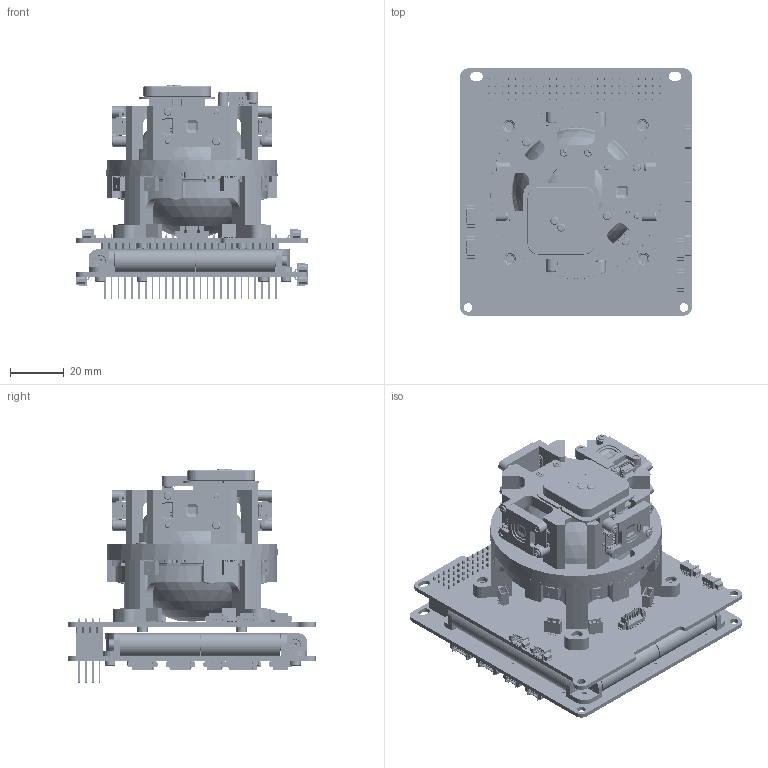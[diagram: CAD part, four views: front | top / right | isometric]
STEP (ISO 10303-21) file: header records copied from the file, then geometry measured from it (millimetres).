
FILE_DESCRIPTION(/* description */ (''),/* implementation_level */ '2;1');
FILE_NAME(/* name */ 'G:\Shared drives\研發部\RD Project\Inventor Mechanical Design Files\ADCS-10m Integrated ADCS\V1.1\Full Assembly of ADCS-10m V1.1 for Customers.stp',/* time_stamp */ '2022-12-06T16:29:51+08:00',/* author */ ('thoma'),/* organization */ (''),/* preprocessor_version */ 'ST-DEVELOPER v19',/* originating_system */ 'Autodesk Inventor 2023',/* authorisation */ '');
FILE_SCHEMA (('AUTOMOTIVE_DESIGN { 1 0 10303 214 3 1 1 }'));
Length unit declared in the file: millimetre
Products named in the file (64): Full Assembly of ADCS-10m V1.1; Assembly C. Circuit Board; C-1. Main Driving Circuit Board - Standard PC104 (Modified); 26. Torquer Seat-2; Magnetorquer Rod; SNSS-M2-3; SNSS-M2-4; SNSS-M2-5; SFB2-4; 15. Corner Coil Seat; 12. Z axis Coil; Magnetorquer Coil; SSQ-126-23-G-D; _T1SSQ-126-23-G-D; _P2SSQ-126-23-G-D; 11. Z axis Coil Seat; C-6-4. Molex Pico Blade 4-pin connector 532614007; Part2; C-6-3. Molex Pico Blade 4-pin connector 532614004; C-6-6. Molex Pico Blade 5-pin connector 532614005; Full Assembly; Stator Assembly; 8. Coil; 1. Stator Back Iron Shell; Stator Coil Seat (2); B-8. Bearing Seat; B-9. Bearing Seat with Spring; B-7. Stator Outer Structure; B-6. Side Magnetic Sensors (Assembly); B-6. Side Magnetic Sensors; C-4. Molex Pico-Clasp 2035570307 1mm 3-pin; B-6-4. X Y-axis Magnetic Sensors; C-1-2. Molex Pico-Clasp 2035570407 1mm 4-pin; SNZS-M2-3; C-1. Z-axis Magnetic Sensor Board; B-8. Z-axis Magnetic Sensor Board; C-1-2. Molex Pico-Clasp 2083810603 1mm 6-pin; 781710004; Document; C-6. Main Driving Circuit Board - Modified PC104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
Assembly tree (162 placements, depth 5):
  Full Assembly of ADCS-10m V1.1
    Assembly C. Circuit Board
      C-1. Main Driving Circuit Board - Standard PC104 (Modified)
      26. Torquer Seat-2  x2
      Magnetorquer Rod  x2
      Magnetorquer Coil  x4
      SNSS-M2-4  x2
      SNSS-M2-3  x3
      SNSS-M2-5  x4
      SFB2-4  x2
      15. Corner Coil Seat
      12. Z axis Coil  x2
      SSQ-126-23-G-D  x2
        _T1SSQ-126-23-G-D
        _P2SSQ-126-23-G-D
      11. Z axis Coil Seat
      C-6-3. Molex Pico Blade 4-pin connector 532614004  x3
      C-6-6. Molex Pico Blade 5-pin connector 532614005  x2
      Part2  x3
      C-6-4. Molex Pico Blade 4-pin connector 532614007
    Full Assembly
      Stator Assembly
        8. Coil  x6
        1. Stator Back Iron Shell  x2
        Stator Coil Seat (2)  x2
        B-8. Bearing Seat
        B-9. Bearing Seat with Spring
        B-7. Stator Outer Structure
        B-6. Side Magnetic Sensors (Assembly)
          B-6. Side Magnetic Sensors
          C-4. Molex Pico-Clasp 2035570307 1mm 3-pin  x4
          B-6-4. X Y-axis Magnetic Sensors  x4
          C-1-2. Molex Pico-Clasp 2035570407 1mm 4-pin  x3
      SNZS-M2-3  x4
      C-1. Z-axis Magnetic Sensor Board
        B-8. Z-axis Magnetic Sensor Board
        C-1-2. Molex Pico-Clasp 2083810603 1mm 6-pin
        781710004
        Document
      C-6. Main Driving Circuit Board - Modified PC104
        C-1. Main Driving Circuit Board - Standard PC104 (Modified)_1
        C-6-2. Pin Header 2.54mm 1-13  x8
        C-4. Molex Pico-Clasp 2035570307 1mm 3-pin_1  x4
        QFN-16 (3x3)
          QFN-16 (3x3) Part1
          QFN-16 (3x3) Part2  x16
          QFN-16 (3x3) Assembly
        C-1-2. Molex Pico-Clasp 2035570407 1mm 4-pin_1  x3
        C-6-7. Molex Pico Blade 6-pin SMT verticle 533984006
        Part2_1  x4
      SNSS-M2-5_1  x3
      C-8. Locating Pin HPA-1.6X8  x6
      Motor Seat
      CSPPN1P-ST3W-M2-8_203  x10
      SPWF2  x6
      C-5CSPPN1P-ST3W-M2-10_203  x2
      CSPPN1P-ST3W-M2-12_203  x4
      FSS100 V2 Assembly  x5
        FSSV2 PCB Board
        FSS Proto-Shell
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Bounding box: 86.01 x 91.72 x 79.62 mm (x, y, z)
Volume: 106676.4 mm3; surface area: 153791.7 mm2
Topology: 186 solids, 186 shells, 23228 faces, 59727 edges, 37040 vertices
Faces by surface type: plane 15567, cylinder 4958, sphere 1685, cone 407, bspline 395, torus 216
Full cylindrical faces by diameter (mm): 0.75 x12, 0.914 x220, 1.5 x46, 1.6 x18, 2 x93, 2.1 x39, 2.2 x6, 3 x4, 3.2 x4, 3.8 x12, 3.82 x2, 4 x4, 5 x9, 5.3 x4, 6 x1, 7 x2, 8.486 x4, 9 x2, 10 x4, 12 x2, 13 x2, 15 x2, 16 x6, 18 x2, 19 x2, 22 x1, 48 x1, 63.6 x1
Entity records: 220187 total; most frequent: CARTESIAN_POINT 49899, ORIENTED_EDGE 34896, DIRECTION 33380, EDGE_CURVE 17448, LINE 13434, VECTOR 13434, VERTEX_POINT 11204, AXIS2_PLACEMENT_3D 9973
